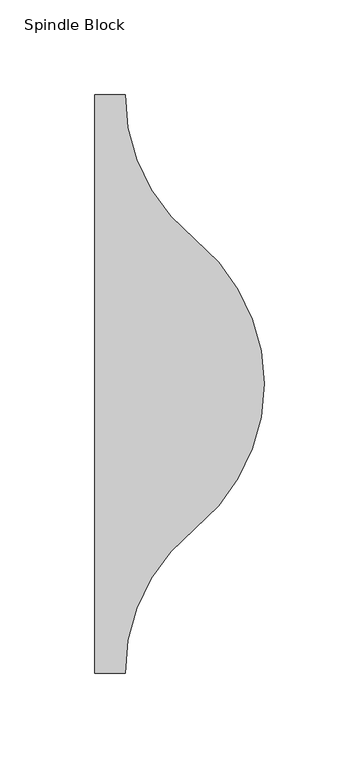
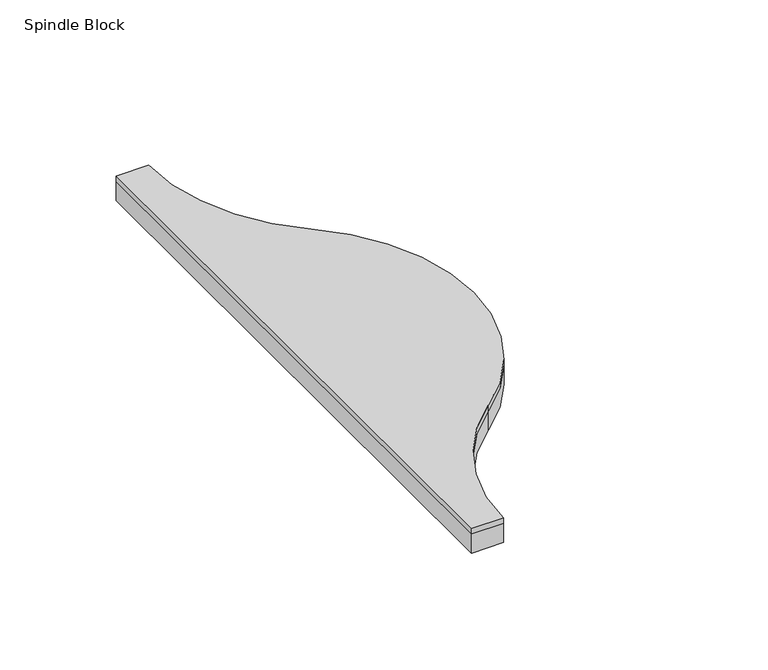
"""IFC4 building model written with IfcOpenShell, lengths in millimetres: proxy geometry, FilzFelt_Spindle_Block : Spindle Block."""

from ifc_helpers import new_model, si_unit, point, frame, frame_2d, origin, origin_with_axes, place, context, project, spatial, polyline, circle_curve, trimmed, segment, composite_curve, outline, extrude, source, transform, mapped, element, save


def spindle_block_7b1ab8b0(model_context):
    return source(origin(), model_context, "Body", "SweptSolid", [
        extrude(outline(composite_curve([segment(trimmed(circle_curve(frame_2d((113.4981354, 152.5)), 97.5776355), [point((15.9204999, 152.5))], [point((52.6102676, 76.25))], True, "CARTESIAN"), True, "CONTINUOUS"), segment(trimmed(circle_curve(frame_2d((-8.2776003, 0.0)), 97.5776355), [point((52.6102676, 76.25))], [point((89.3000352, 0.0))], False, "CARTESIAN"), True, "CONTINUOUS"), segment(trimmed(circle_curve(frame_2d((-8.2776003, 0.0)), 97.5776355), [point((89.3000352, 0.0))], [point((52.6102676, -76.25))], False, "CARTESIAN"), True, "CONTINUOUS"), segment(trimmed(circle_curve(frame_2d((113.4981354, -152.5)), 97.5776355), [point((52.6102676, -76.25))], [point((15.9204999, -152.5))], True, "CARTESIAN"), True, "CONTINUOUS"), segment(polyline([(15.9204999, -152.5), (0.0, -152.5), (0.0, 152.5), (15.9204999, 152.5)]), True, "CONTINUOUS")], self_intersect=False)), frame((0.0, 0.0, 10.0210937), z_axis=(0.0, 0.0, 1.0), x_axis=(1.0, 0.0, 0.0)), (0.0, 0.0, 1.0), 2.9765625),
        extrude(outline(composite_curve([segment(trimmed(circle_curve(frame_2d((113.4981354, 152.5)), 97.5776355), [point((15.9204999, 152.5))], [point((52.6102676, 76.25))], True, "CARTESIAN"), True, "CONTINUOUS"), segment(trimmed(circle_curve(frame_2d((-8.2776003, 0.0)), 97.5776355), [point((52.6102676, 76.25))], [point((89.3000352, 0.0))], False, "CARTESIAN"), True, "CONTINUOUS"), segment(trimmed(circle_curve(frame_2d((-8.2776003, 0.0)), 97.5776355), [point((89.3000352, 0.0))], [point((52.6102676, -76.25))], False, "CARTESIAN"), True, "CONTINUOUS"), segment(trimmed(circle_curve(frame_2d((113.4981354, -152.5)), 97.5776355), [point((52.6102676, -76.25))], [point((15.9204999, -152.5))], True, "CARTESIAN"), True, "CONTINUOUS"), segment(polyline([(15.9204999, -152.5), (0.0, -152.5), (0.0, 152.5), (15.9204999, 152.5)]), True, "CONTINUOUS")], self_intersect=False)), origin_with_axes(), (0.0, 0.0, 1.0), 10.0210938),
    ])


if __name__ == "__main__":
    model = new_model("IFC4")
    model_context = context("Model", 3, world=origin())
    ifc_project = project(units=[si_unit("LENGTHUNIT", "METRE", prefix="MILLI")], contexts=[model_context])
    site = spatial("IfcSite", under=ifc_project)
    building = spatial("IfcBuilding", under=site)
    placement = place(None, origin())
    spindle_block_shape = spindle_block_7b1ab8b0(model_context)
    element("IfcBuildingElementProxy", 1, Name="FilzFelt_Spindle_Block : Spindle Block", ObjectType="FilzFelt_Spindle_Block : Spindle Block", at=placement, inside=building, context=model_context, shape_type="MappedRepresentation", body=[
        mapped(spindle_block_shape, transform((0.0, 0.0, 0.0), x_axis=(1.0, 0.0, 0.0), y_axis=(0.0, 1.0, 0.0), z_axis=(0.0, 0.0, 1.0))),
    ])
    save(model, "model.ifc")
